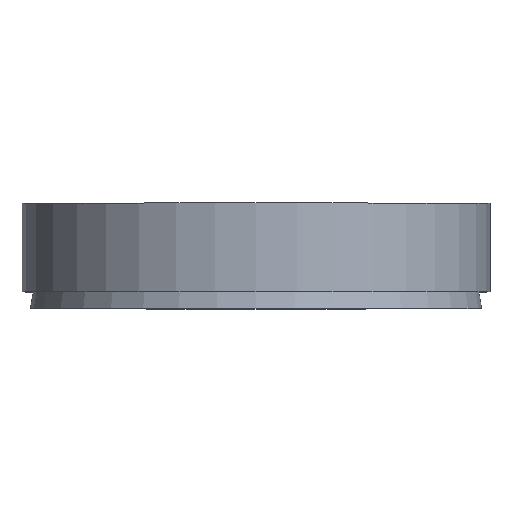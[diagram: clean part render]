
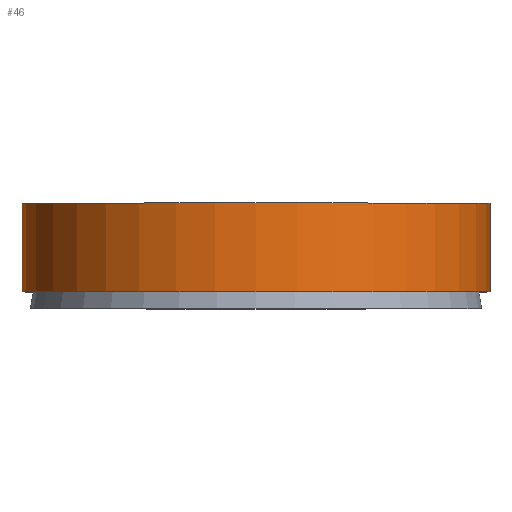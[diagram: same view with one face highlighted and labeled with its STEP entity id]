
A CAD part, top view. The second image highlights one B-rep face of the part: STEP entity #46.
In plain terms, the highlighted cylindrical face has radius 14 mm (diameter 28 mm), a full revolution.
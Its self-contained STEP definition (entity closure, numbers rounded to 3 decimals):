
#46 = ADVANCED_FACE( '', ( #93, #94 ), #95, .T. );
#93 = FACE_OUTER_BOUND( '', #132, .T. );
#94 = FACE_OUTER_BOUND( '', #133, .T. );
#95 = CYLINDRICAL_SURFACE( '', #134, 14. );
#132 = EDGE_LOOP( '', ( #179 ) );
#133 = EDGE_LOOP( '', ( #180 ) );
#134 = AXIS2_PLACEMENT_3D( '', #181, #182, #183 );
#179 = ORIENTED_EDGE( '', *, *, #189, .F. );
#180 = ORIENTED_EDGE( '', *, *, #198, .T. );
#181 = CARTESIAN_POINT( '', ( 0., -60., 0. ) );
#182 = DIRECTION( '', ( 0., 1., 0. ) );
#183 = DIRECTION( '', ( 0., 0., -1. ) );
#189 = EDGE_CURVE( '', #208, #208, #209, .T. );
#198 = EDGE_CURVE( '', #221, #221, #222, .T. );
#208 = VERTEX_POINT( '', #232 );
#209 = CIRCLE( '', #233, 14. );
#221 = VERTEX_POINT( '', #245 );
#222 = CIRCLE( '', #246, 14. );
#232 = CARTESIAN_POINT( '', ( 0., 1., -14. ) );
#233 = AXIS2_PLACEMENT_3D( '', #257, #258, #259 );
#245 = CARTESIAN_POINT( '', ( 0., 6.3, -14. ) );
#246 = AXIS2_PLACEMENT_3D( '', #269, #270, #271 );
#257 = CARTESIAN_POINT( '', ( 0., 1., 0. ) );
#258 = DIRECTION( '', ( 0., -1., 0. ) );
#259 = DIRECTION( '', ( 0., 0., -1. ) );
#269 = CARTESIAN_POINT( '', ( 0., 6.3, 0. ) );
#270 = DIRECTION( '', ( 0., -1., 0. ) );
#271 = DIRECTION( '', ( 0., 0., -1. ) );
